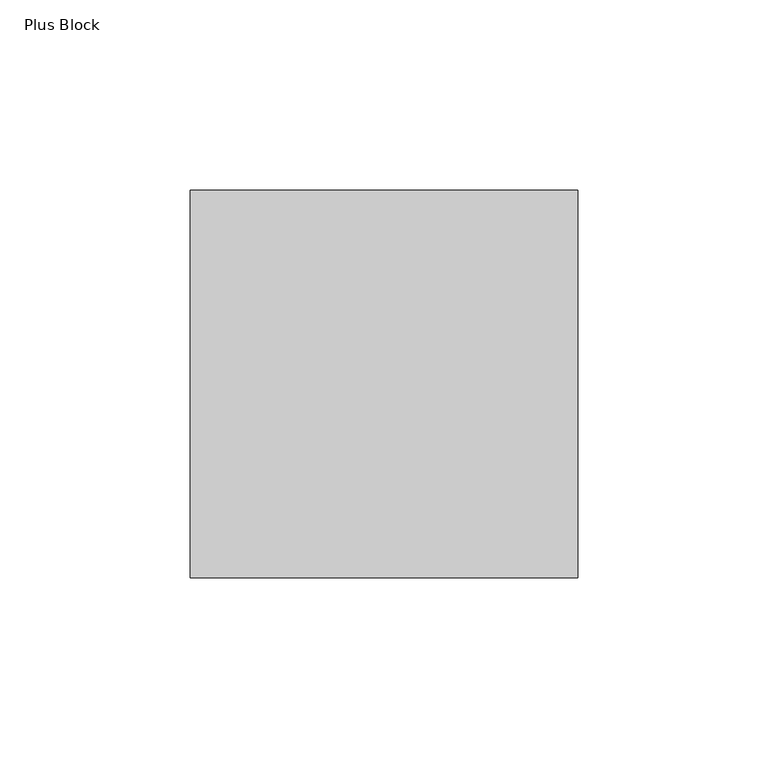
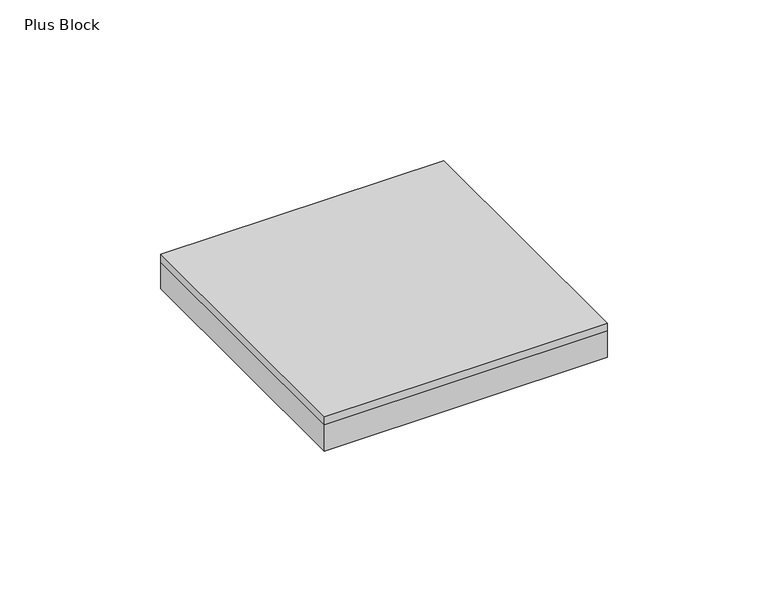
"""IFC4 building model written with IfcOpenShell, lengths in millimetres: proxy geometry, FilzFelt_Plus_Block : Plus Block."""

import ifcopenshell
import ifcopenshell.guid

model = None  # the IFC model being written
_history = None  # IfcOwnerHistory: only IFC2X3 demands one
_inside = {}  # id of a spatial element -> (the spatial element, [elements in it])
_under = {}  # id of a project, library or spatial element -> (it, [spatial elements below it])
_declared = {}  # id of a project -> (the project, [libraries it declares])
_typed = {}  # id of a type object -> (the type object, [elements of that type])
_made_of = {}  # id of a material, layer set ... -> (it, [elements and type objects made of it])


def new_model(schema):
    """Start an empty IFC model of exactly this schema.

    Asked for "IFC4X3", IfcOpenShell would pick the latest addendum, in which some entities
    have other attributes; the version numbers below select the first issue.
    IFC2X3 requires an IfcOwnerHistory on every rooted entity: one is made here for all.
    """
    global model, _history
    if schema == "IFC4X3":
        model = ifcopenshell.file(schema_version=(4, 3, 0, 0))
    else:
        model = ifcopenshell.file(schema=schema)
    _inside.clear()
    _under.clear()
    _declared.clear()
    _typed.clear()
    _made_of.clear()
    _history = None
    if model.schema == "IFC2X3":
        org = make("IfcOrganization", Name="unknown")
        user = make(
            "IfcPersonAndOrganization",
            ThePerson=make("IfcPerson", FamilyName="unknown"),
            TheOrganization=org,
        )
        app = make(
            "IfcApplication",
            ApplicationDeveloper=org,
            Version="unknown",
            ApplicationFullName="unknown",
            ApplicationIdentifier="unknown",
        )
        _history = make(
            "IfcOwnerHistory",
            OwningUser=user,
            OwningApplication=app,
            ChangeAction="ADDED",
            CreationDate=0,
        )
    return model


def make(cls, **values):
    """One entity of the class cls with the attributes given. An attribute that is None is left unset."""
    return model.create_entity(
        cls, **{name: value for name, value in values.items() if value is not None}
    )


def rooted(cls, **values):
    """An entity with a GlobalId (a new one), such as an element, a storey or a relation."""
    return make(cls, GlobalId=ifcopenshell.guid.new(), OwnerHistory=_history, **values)


def si_unit(unit_type, name, prefix=None):
    """IfcSIUnit, for example si_unit("LENGTHUNIT", "METRE", prefix="MILLI")."""
    return make("IfcSIUnit", UnitType=unit_type, Prefix=prefix, Name=name)


def assignment(units):
    """IfcUnitAssignment: the units of a project."""
    return None if units is None else make("IfcUnitAssignment", Units=units)


def point(xyz):
    """IfcCartesianPoint."""
    return None if xyz is None else make("IfcCartesianPoint", Coordinates=xyz)


def direction(xyz):
    """IfcDirection."""
    return None if xyz is None else make("IfcDirection", DirectionRatios=xyz)


def frame(location, z_axis=None, x_axis=None):
    """IfcAxis2Placement3D, a coordinate frame: its origin and axes. An axis left out is left unset."""
    return make(
        "IfcAxis2Placement3D",
        Location=point(location),
        Axis=direction(z_axis),
        RefDirection=direction(x_axis),
    )


def origin():
    """The frame at (0, 0, 0) with its axes left unset."""
    return frame((0.0, 0.0, 0.0))


def origin_with_axes():
    """The frame at (0, 0, 0) with the z axis (0, 0, 1) and the x axis (1, 0, 0) written out."""
    return frame((0.0, 0.0, 0.0), z_axis=(0.0, 0.0, 1.0), x_axis=(1.0, 0.0, 0.0))


def place(relative_to, where):
    """IfcLocalPlacement: puts the frame where relative to a parent placement (None: the world)."""
    return make(
        "IfcLocalPlacement", PlacementRelTo=relative_to, RelativePlacement=where
    )


def context(
    kind, dimensions, precision=None, world=None, true_north=None, identifier=None
):
    """IfcGeometricRepresentationContext, for example the 3D "Model" context."""
    return make(
        "IfcGeometricRepresentationContext",
        ContextIdentifier=identifier,
        ContextType=kind,
        CoordinateSpaceDimension=dimensions,
        Precision=precision,
        WorldCoordinateSystem=world,
        TrueNorth=true_north,
    )


def project(units=None, contexts=None):
    """IfcProject with its units and contexts."""
    return rooted(
        "IfcProject",
        Name="project",
        RepresentationContexts=contexts,
        UnitsInContext=assignment(units),
    )


def spatial(cls, under=None, at=None, **own):
    """A site, building, storey or space (cls), placed at a placement, below another one or the project."""
    s = rooted(cls, ObjectPlacement=at, **own)
    if under is not None:
        _under.setdefault(under.id(), (under, []))[1].append(s)
    return s


def polyline(points):
    """IfcPolyline through the points."""
    return make("IfcPolyline", Points=[point(p) for p in points])


def outline(outer, holes=None, kind="AREA"):
    """IfcArbitraryClosedProfileDef: a profile drawn as a closed curve; with holes, ...WithVoids."""
    if holes is None:
        return make("IfcArbitraryClosedProfileDef", ProfileType=kind, OuterCurve=outer)
    return make(
        "IfcArbitraryProfileDefWithVoids",
        ProfileType=kind,
        OuterCurve=outer,
        InnerCurves=holes,
    )


def extrude(swept, where, along, depth):
    """IfcExtrudedAreaSolid: the profile swept, set in the frame where, extruded along a direction by depth."""
    return make(
        "IfcExtrudedAreaSolid",
        SweptArea=swept,
        Position=where,
        ExtrudedDirection=direction(along),
        Depth=depth,
    )


def shape(context_of_items, identifier, shape_type, items):
    """IfcShapeRepresentation: the items that make up one representation, for example the "Body"."""
    return make(
        "IfcShapeRepresentation",
        ContextOfItems=context_of_items,
        RepresentationIdentifier=identifier,
        RepresentationType=shape_type,
        Items=items,
    )


def source(mapping_origin, context_of_items, identifier, shape_type, items):
    """IfcRepresentationMap: a shape defined once, which mapped items show again and again."""
    return make(
        "IfcRepresentationMap",
        MappingOrigin=mapping_origin,
        MappedRepresentation=shape(context_of_items, identifier, shape_type, items),
    )


def transform(
    local_origin,
    x_axis=None,
    y_axis=None,
    z_axis=None,
    scale=None,
    scale2=None,
    scale3=None,
    uniform=True,
):
    """IfcCartesianTransformationOperator3D, or its non-uniform kind. x_axis, y_axis, z_axis: its Axis1, 2, 3."""
    if uniform:
        return make(
            "IfcCartesianTransformationOperator3D",
            Axis1=direction(x_axis),
            Axis2=direction(y_axis),
            LocalOrigin=point(local_origin),
            Scale=scale,
            Axis3=direction(z_axis),
        )
    return make(
        "IfcCartesianTransformationOperator3DnonUniform",
        Axis1=direction(x_axis),
        Axis2=direction(y_axis),
        LocalOrigin=point(local_origin),
        Scale=scale,
        Axis3=direction(z_axis),
        Scale2=scale2,
        Scale3=scale3,
    )


def mapped(mapping_source, mapping_target):
    """IfcMappedItem: shows the shape of a source again, moved by a transform."""
    return make(
        "IfcMappedItem", MappingSource=mapping_source, MappingTarget=mapping_target
    )


def made_of(thing, what):
    """Note that an element or type object is made of a material, layer set ...; save() writes the relation."""
    if what is not None:
        _made_of.setdefault(what.id(), (what, []))[1].append(thing)
    return thing


def element(
    cls,
    number,
    at=None,
    inside=None,
    cuts=None,
    type_object=None,
    material=None,
    context=None,
    identifier="Body",
    shape_type=None,
    held_by="IfcProductDefinitionShape",
    body=None,
    shapes=None,
    **own,
):
    """One element of the class cls, such as IfcWall. Its Tag is "e" and its number.

    at: its placement. inside: the storey or other place that contains it. cuts: it is an
    opening in that element (IfcRelVoidsElement). A single representation is given by context,
    identifier, shape_type and body (its items); several are given by shapes. held_by: the class
    of the entity that holds the representations. save() writes the other relations.
    """
    e = rooted(cls, Tag="e%d" % number, ObjectPlacement=at, **own)
    if body is not None:
        shapes = [shape(context, identifier, shape_type, body)]
    if shapes is not None:
        e.Representation = make(held_by, Representations=shapes)
    if inside is not None:
        _inside.setdefault(inside.id(), (inside, []))[1].append(e)
    if cuts is not None:
        rooted(
            "IfcRelVoidsElement", RelatingBuildingElement=cuts, RelatedOpeningElement=e
        )
    if type_object is not None:
        _typed.setdefault(type_object.id(), (type_object, []))[1].append(e)
    return made_of(e, material)


def aggregate(whole, parts):
    """IfcRelAggregates: a whole, such as a stair, and the parts it consists of."""
    return rooted("IfcRelAggregates", RelatingObject=whole, RelatedObjects=parts)


def save(model, path):
    """Write the relations noted so far, then the file.

    IfcRelAggregates (storeys below a building ...), IfcRelContainedInSpatialStructure (elements
    in a storey), IfcRelDefinesByType, IfcRelAssociatesMaterial and IfcRelDeclares: one each for
    every whole, place, type object, material and project.
    """
    for whole, parts in _under.values():
        aggregate(whole, parts)
    for where, things in _inside.values():
        rooted(
            "IfcRelContainedInSpatialStructure",
            RelatedElements=things,
            RelatingStructure=where,
        )
    for kind, things in _typed.values():
        rooted("IfcRelDefinesByType", RelatedObjects=things, RelatingType=kind)
    for what, things in _made_of.values():
        rooted("IfcRelAssociatesMaterial", RelatedObjects=things, RelatingMaterial=what)
    for by, libraries in _declared.values():
        rooted("IfcRelDeclares", RelatingContext=by, RelatedDefinitions=libraries)
    model.write(path)


def plus_block_097eb3e5(model_context):
    return source(origin(), model_context, "Body", "SweptSolid", [
        extrude(outline(polyline([(50.8333333, -50.8333333), (50.8333333, -152.5), (-50.8333333, -152.5), (-50.8333333, -50.8333333), (50.8333333, -50.8333333)])), frame((0.0, 0.0, 10.0210937), z_axis=(0.0, 0.0, 1.0), x_axis=(1.0, 0.0, 0.0)), (0.0, 0.0, 1.0), 2.9765625),
        extrude(outline(polyline([(50.8333333, -50.8333333), (50.8333333, -152.5), (-50.8333333, -152.5), (-50.8333333, -50.8333333), (50.8333333, -50.8333333)])), origin_with_axes(), (0.0, 0.0, 1.0), 10.0210938),
    ])


if __name__ == "__main__":
    model = new_model("IFC4")
    model_context = context("Model", 3, world=origin())
    ifc_project = project(units=[si_unit("LENGTHUNIT", "METRE", prefix="MILLI")], contexts=[model_context])
    site = spatial("IfcSite", under=ifc_project)
    building = spatial("IfcBuilding", under=site)
    placement = place(None, origin())
    plus_block_shape = plus_block_097eb3e5(model_context)
    element("IfcBuildingElementProxy", 1, Name="FilzFelt_Plus_Block : Plus Block", ObjectType="FilzFelt_Plus_Block : Plus Block", at=placement, inside=building, context=model_context, shape_type="MappedRepresentation", body=[
        mapped(plus_block_shape, transform((0.0, 0.0, 0.0), x_axis=(1.0, 0.0, 0.0), y_axis=(0.0, 1.0, 0.0), z_axis=(0.0, 0.0, 1.0))),
    ])
    save(model, "model.ifc")
